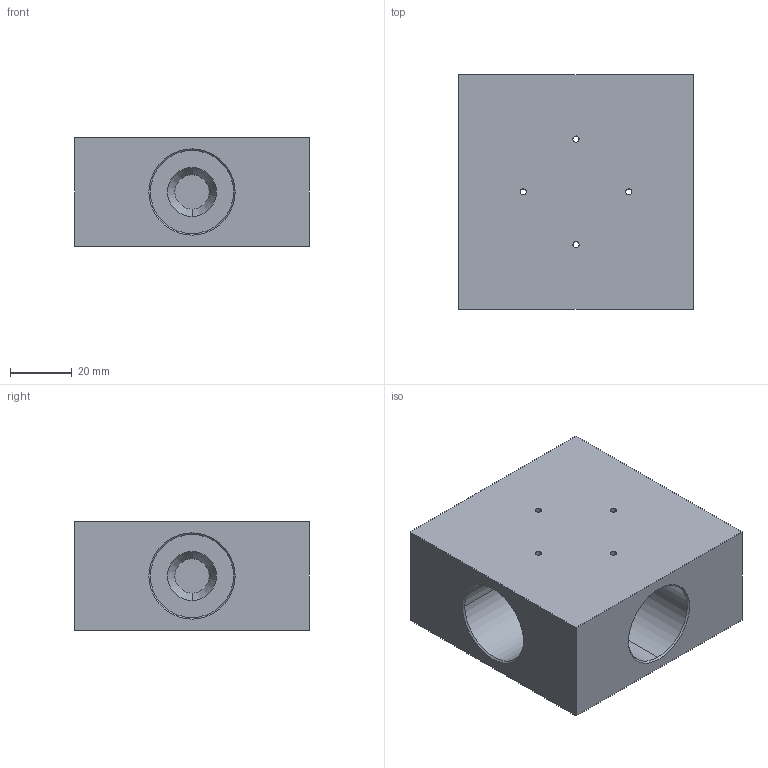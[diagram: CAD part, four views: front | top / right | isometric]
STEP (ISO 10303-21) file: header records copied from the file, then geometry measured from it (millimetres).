
FILE_DESCRIPTION (( 'STEP AP203' ), '1' );
FILE_NAME ('FT20CS12.STEP', '2026-06-26T00:49:03', ( 'USER' ), ( '' ), 'SwSTEP 2.0', 'SolidWorks 2023', '' );
FILE_SCHEMA (( 'CONFIG_CONTROL_DESIGN' ));
Length unit declared in the file: millimetre
Products named in the file (1): FT20CS12
Bounding box: 76 x 76 x 35 mm (x, y, z)
Volume: 143591.9 mm3; surface area: 31345.4 mm2
Topology: 1 solids, 1 shells, 62 faces, 152 edges, 96 vertices
Faces by surface type: cylinder 32, cone 16, plane 14
Entity records: 2157 total; most frequent: CARTESIAN_POINT 575, DIRECTION 318, ORIENTED_EDGE 304, EDGE_CURVE 152, AXIS2_PLACEMENT_3D 127, VERTEX_POINT 96, EDGE_LOOP 82, CIRCLE 64
